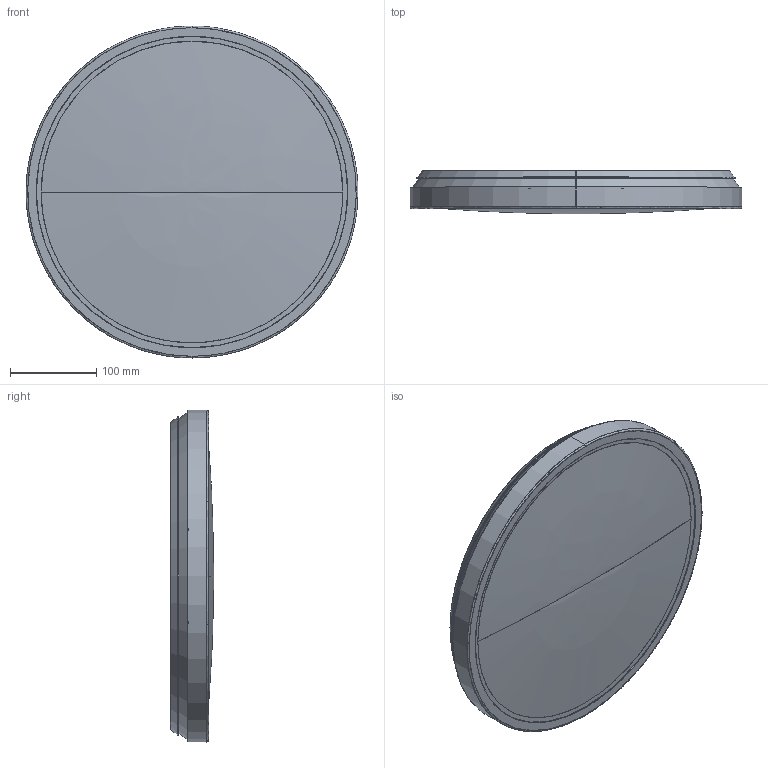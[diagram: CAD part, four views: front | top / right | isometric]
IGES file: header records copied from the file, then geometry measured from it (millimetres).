
Start section: SolidWorks IGES file using analytic representation for surfaces
Global section: file name: Z:\Modele 3D_WWW\_KOLEKCJE_WWW\AGNES\AGNES-ROUND-LED-8207-8204-8186-8183\AGNES-ROUND-LED-8207-8204-8186-8183.IGS; native system: SolidWorks 2020; preprocessor: SolidWorks 2020; author: gabriela.tworek; date: 210308.144024; units: millimetre
Bounding box: 385 x 50 x 385 mm (x, y, z)
Surface area: 580163.8 mm2 (no closed solid volume)
Topology: 0 solids, 0 shells, 48 faces, 1304 edges, 1303 vertices
Faces by surface type: revolution 26, bspline 22
